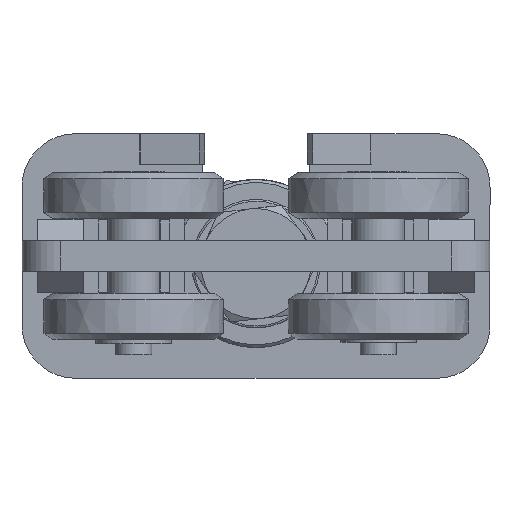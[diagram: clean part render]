
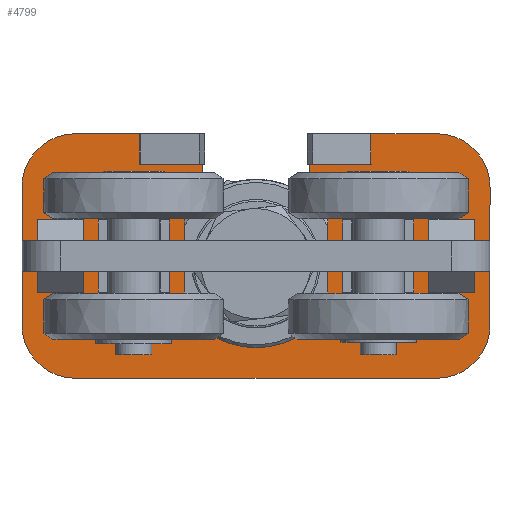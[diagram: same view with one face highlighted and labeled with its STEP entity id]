
A CAD part, front view. The second image highlights one B-rep face of the part: STEP entity #4799.
In plain terms, the highlighted planar face has unit normal (0, -1, 0) as drawn and (0, 0, 1) by its records, which use the part's own axes.
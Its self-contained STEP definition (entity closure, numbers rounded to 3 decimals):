
#278=FACE_BOUND('',#1145,.T.);
#279=FACE_BOUND('',#1146,.T.);
#417=CIRCLE('',#5154,17.5);
#418=CIRCLE('',#5155,17.5);
#419=CIRCLE('',#5156,17.5);
#420=CIRCLE('',#5157,17.5);
#421=CIRCLE('',#5158,17.5);
#846=FACE_OUTER_BOUND('',#1144,.T.);
#1144=EDGE_LOOP('',(#3602,#3603,#3604,#3605,#3606,#3607,#3608,#3609,#3610,
#3611,#3612,#3613,#3614,#3615,#3616,#3617,#3618,#3619,#3620,#3621));
#1145=EDGE_LOOP('',(#3622,#3623,#3624,#3625));
#1146=EDGE_LOOP('',(#3626,#3627,#3628,#3629));
#1627=LINE('',#7539,#1955);
#1639=LINE('',#7563,#1967);
#1643=LINE('',#7571,#1971);
#1645=LINE('',#7575,#1973);
#1648=LINE('',#7581,#1976);
#1649=LINE('',#7585,#1977);
#1650=LINE('',#7589,#1978);
#1651=LINE('',#7593,#1979);
#1652=LINE('',#7597,#1980);
#1653=LINE('',#7599,#1981);
#1654=LINE('',#7601,#1982);
#1655=LINE('',#7603,#1983);
#1656=LINE('',#7605,#1984);
#1657=LINE('',#7607,#1985);
#1658=LINE('',#7610,#1986);
#1659=LINE('',#7613,#1987);
#1660=LINE('',#7615,#1988);
#1661=LINE('',#7617,#1989);
#1662=LINE('',#7618,#1990);
#1663=LINE('',#7621,#1991);
#1664=LINE('',#7623,#1992);
#1665=LINE('',#7625,#1993);
#1666=LINE('',#7626,#1994);
#1955=VECTOR('',#5997,10.);
#1967=VECTOR('',#6023,0.1);
#1971=VECTOR('',#6029,0.1);
#1973=VECTOR('',#6033,20.571);
#1976=VECTOR('',#6038,21.029);
#1977=VECTOR('',#6041,45.);
#1978=VECTOR('',#6044,118.);
#1979=VECTOR('',#6047,45.);
#1980=VECTOR('',#6050,21.5);
#1981=VECTOR('',#6051,10.);
#1982=VECTOR('',#6052,0.1);
#1983=VECTOR('',#6053,0.1);
#1984=VECTOR('',#6054,20.1);
#1985=VECTOR('',#6055,32.4);
#1986=VECTOR('',#6058,32.4);
#1987=VECTOR('',#6059,10.2);
#1988=VECTOR('',#6060,40.4);
#1989=VECTOR('',#6061,10.2);
#1990=VECTOR('',#6062,40.4);
#1991=VECTOR('',#6063,10.2);
#1992=VECTOR('',#6064,40.4);
#1993=VECTOR('',#6065,10.2);
#1994=VECTOR('',#6066,40.4);
#2242=VERTEX_POINT('',#7526);
#2245=VERTEX_POINT('',#7533);
#2251=VERTEX_POINT('',#7562);
#2254=VERTEX_POINT('',#7570);
#2255=VERTEX_POINT('',#7574);
#2257=VERTEX_POINT('',#7580);
#2258=VERTEX_POINT('',#7582);
#2259=VERTEX_POINT('',#7584);
#2260=VERTEX_POINT('',#7586);
#2261=VERTEX_POINT('',#7588);
#2262=VERTEX_POINT('',#7590);
#2263=VERTEX_POINT('',#7592);
#2264=VERTEX_POINT('',#7594);
#2265=VERTEX_POINT('',#7596);
#2266=VERTEX_POINT('',#7598);
#2267=VERTEX_POINT('',#7600);
#2268=VERTEX_POINT('',#7602);
#2269=VERTEX_POINT('',#7604);
#2270=VERTEX_POINT('',#7606);
#2271=VERTEX_POINT('',#7608);
#2272=VERTEX_POINT('',#7611);
#2273=VERTEX_POINT('',#7612);
#2274=VERTEX_POINT('',#7614);
#2275=VERTEX_POINT('',#7616);
#2276=VERTEX_POINT('',#7619);
#2277=VERTEX_POINT('',#7620);
#2278=VERTEX_POINT('',#7622);
#2279=VERTEX_POINT('',#7624);
#2751=EDGE_CURVE('',#2242,#2245,#1627,.T.);
#2763=EDGE_CURVE('',#2251,#2242,#1639,.T.);
#2767=EDGE_CURVE('',#2254,#2251,#1643,.T.);
#2769=EDGE_CURVE('',#2254,#2255,#1645,.T.);
#2772=EDGE_CURVE('',#2257,#2245,#1648,.T.);
#2773=EDGE_CURVE('',#2258,#2257,#417,.T.);
#2774=EDGE_CURVE('',#2259,#2258,#1649,.T.);
#2775=EDGE_CURVE('',#2260,#2259,#418,.T.);
#2776=EDGE_CURVE('',#2261,#2260,#1650,.T.);
#2777=EDGE_CURVE('',#2262,#2261,#419,.T.);
#2778=EDGE_CURVE('',#2263,#2262,#1651,.T.);
#2779=EDGE_CURVE('',#2264,#2263,#420,.T.);
#2780=EDGE_CURVE('',#2265,#2264,#1652,.T.);
#2781=EDGE_CURVE('',#2265,#2266,#1653,.T.);
#2782=EDGE_CURVE('',#2266,#2267,#1654,.T.);
#2783=EDGE_CURVE('',#2267,#2268,#1655,.T.);
#2784=EDGE_CURVE('',#2268,#2269,#1656,.T.);
#2785=EDGE_CURVE('',#2270,#2269,#1657,.T.);
#2786=EDGE_CURVE('',#2271,#2270,#421,.T.);
#2787=EDGE_CURVE('',#2255,#2271,#1658,.T.);
#2788=EDGE_CURVE('',#2272,#2273,#1659,.T.);
#2789=EDGE_CURVE('',#2273,#2274,#1660,.T.);
#2790=EDGE_CURVE('',#2274,#2275,#1661,.T.);
#2791=EDGE_CURVE('',#2275,#2272,#1662,.T.);
#2792=EDGE_CURVE('',#2276,#2277,#1663,.T.);
#2793=EDGE_CURVE('',#2277,#2278,#1664,.T.);
#2794=EDGE_CURVE('',#2278,#2279,#1665,.T.);
#2795=EDGE_CURVE('',#2279,#2276,#1666,.T.);
#3602=ORIENTED_EDGE('',*,*,#2769,.F.);
#3603=ORIENTED_EDGE('',*,*,#2767,.T.);
#3604=ORIENTED_EDGE('',*,*,#2763,.T.);
#3605=ORIENTED_EDGE('',*,*,#2751,.T.);
#3606=ORIENTED_EDGE('',*,*,#2772,.F.);
#3607=ORIENTED_EDGE('',*,*,#2773,.F.);
#3608=ORIENTED_EDGE('',*,*,#2774,.F.);
#3609=ORIENTED_EDGE('',*,*,#2775,.F.);
#3610=ORIENTED_EDGE('',*,*,#2776,.F.);
#3611=ORIENTED_EDGE('',*,*,#2777,.F.);
#3612=ORIENTED_EDGE('',*,*,#2778,.F.);
#3613=ORIENTED_EDGE('',*,*,#2779,.F.);
#3614=ORIENTED_EDGE('',*,*,#2780,.F.);
#3615=ORIENTED_EDGE('',*,*,#2781,.T.);
#3616=ORIENTED_EDGE('',*,*,#2782,.T.);
#3617=ORIENTED_EDGE('',*,*,#2783,.T.);
#3618=ORIENTED_EDGE('',*,*,#2784,.T.);
#3619=ORIENTED_EDGE('',*,*,#2785,.F.);
#3620=ORIENTED_EDGE('',*,*,#2786,.F.);
#3621=ORIENTED_EDGE('',*,*,#2787,.F.);
#3622=ORIENTED_EDGE('',*,*,#2788,.T.);
#3623=ORIENTED_EDGE('',*,*,#2789,.T.);
#3624=ORIENTED_EDGE('',*,*,#2790,.T.);
#3625=ORIENTED_EDGE('',*,*,#2791,.T.);
#3626=ORIENTED_EDGE('',*,*,#2792,.T.);
#3627=ORIENTED_EDGE('',*,*,#2793,.T.);
#3628=ORIENTED_EDGE('',*,*,#2794,.T.);
#3629=ORIENTED_EDGE('',*,*,#2795,.T.);
#4612=PLANE('',#5153);
#4799=ADVANCED_FACE('',(#846,#278,#279),#4612,.T.);
#5153=AXIS2_PLACEMENT_3D('',#7579,#6036,#6037);
#5154=AXIS2_PLACEMENT_3D('',#7583,#6039,#6040);
#5155=AXIS2_PLACEMENT_3D('',#7587,#6042,#6043);
#5156=AXIS2_PLACEMENT_3D('',#7591,#6045,#6046);
#5157=AXIS2_PLACEMENT_3D('',#7595,#6048,#6049);
#5158=AXIS2_PLACEMENT_3D('',#7609,#6056,#6057);
#5997=DIRECTION('',(0.,-1.,0.));
#6023=DIRECTION('',(-1.,0.,0.));
#6029=DIRECTION('',(0.,-1.,0.));
#6033=DIRECTION('',(-1.,0.,0.));
#6036=DIRECTION('center_axis',(0.,0.,1.));
#6037=DIRECTION('ref_axis',(1.,0.,0.));
#6038=DIRECTION('',(-1.,0.,0.));
#6039=DIRECTION('center_axis',(0.,0.,-1.));
#6040=DIRECTION('ref_axis',(0.,-1.,0.));
#6041=DIRECTION('',(0.,-1.,0.));
#6042=DIRECTION('center_axis',(0.,0.,-1.));
#6043=DIRECTION('ref_axis',(1.,0.,0.));
#6044=DIRECTION('',(1.,0.,0.));
#6045=DIRECTION('center_axis',(0.,0.,-1.));
#6046=DIRECTION('ref_axis',(0.,1.,0.));
#6047=DIRECTION('',(0.,1.,0.));
#6048=DIRECTION('center_axis',(0.,0.,-1.));
#6049=DIRECTION('ref_axis',(-1.,0.,0.));
#6050=DIRECTION('',(-1.,0.,0.));
#6051=DIRECTION('',(0.,1.,0.));
#6052=DIRECTION('',(-1.,0.,0.));
#6053=DIRECTION('',(0.,1.,0.));
#6054=DIRECTION('',(1.,0.,0.));
#6055=DIRECTION('',(0.,-1.,0.));
#6056=DIRECTION('center_axis',(0.,0.,1.));
#6057=DIRECTION('ref_axis',(-1.,0.,0.));
#6058=DIRECTION('',(0.,1.,0.));
#6059=DIRECTION('',(0.,-1.,0.));
#6060=DIRECTION('',(-1.,0.,0.));
#6061=DIRECTION('',(0.,1.,0.));
#6062=DIRECTION('',(1.,0.,0.));
#6063=DIRECTION('',(0.,-1.,0.));
#6064=DIRECTION('',(-1.,0.,0.));
#6065=DIRECTION('',(0.,1.,0.));
#6066=DIRECTION('',(1.,0.,0.));
#7526=CARTESIAN_POINT('',(37.971,-30.,10.));
#7533=CARTESIAN_POINT('',(37.971,-40.,10.));
#7539=CARTESIAN_POINT('',(37.971,-21.53,10.));
#7562=CARTESIAN_POINT('',(38.071,-30.,10.));
#7563=CARTESIAN_POINT('',(18.464,-30.,10.));
#7570=CARTESIAN_POINT('',(38.071,-29.9,10.));
#7571=CARTESIAN_POINT('',(38.071,-16.53,10.));
#7574=CARTESIAN_POINT('',(17.5,-29.9,10.));
#7575=CARTESIAN_POINT('',(17.5,-29.9,10.));
#7579=CARTESIAN_POINT('Origin',(0.,-3.06,
10.));
#7580=CARTESIAN_POINT('',(59.,-40.,10.));
#7581=CARTESIAN_POINT('',(-59.,-40.,10.));
#7582=CARTESIAN_POINT('',(76.5,-22.5,10.));
#7583=CARTESIAN_POINT('Origin',(59.,-22.5,10.));
#7584=CARTESIAN_POINT('',(76.5,22.5,10.));
#7585=CARTESIAN_POINT('',(76.5,-22.5,10.));
#7586=CARTESIAN_POINT('',(59.,40.,10.));
#7587=CARTESIAN_POINT('Origin',(59.,22.5,10.));
#7588=CARTESIAN_POINT('',(-59.,40.,10.));
#7589=CARTESIAN_POINT('',(59.,40.,10.));
#7590=CARTESIAN_POINT('',(-76.5,22.5,10.));
#7591=CARTESIAN_POINT('Origin',(-59.,22.5,10.));
#7592=CARTESIAN_POINT('',(-76.5,-22.5,10.));
#7593=CARTESIAN_POINT('',(-76.5,22.5,10.));
#7594=CARTESIAN_POINT('',(-59.,-40.,10.));
#7595=CARTESIAN_POINT('Origin',(-59.,-22.5,10.));
#7596=CARTESIAN_POINT('',(-37.5,-40.,10.));
#7597=CARTESIAN_POINT('',(-59.,-40.,10.));
#7598=CARTESIAN_POINT('',(-37.5,-30.,10.));
#7599=CARTESIAN_POINT('',(-37.5,-16.53,10.));
#7600=CARTESIAN_POINT('',(-37.6,-30.,10.));
#7601=CARTESIAN_POINT('',(-18.8,-30.,10.));
#7602=CARTESIAN_POINT('',(-37.6,-29.9,10.));
#7603=CARTESIAN_POINT('',(-37.6,-16.48,10.));
#7604=CARTESIAN_POINT('',(-17.5,-29.9,10.));
#7605=CARTESIAN_POINT('',(-18.229,-29.9,10.));
#7606=CARTESIAN_POINT('',(-17.5,2.5,10.));
#7607=CARTESIAN_POINT('',(-17.5,-29.9,10.));
#7608=CARTESIAN_POINT('',(17.5,2.5,10.));
#7609=CARTESIAN_POINT('Origin',(0.,2.5,10.));
#7610=CARTESIAN_POINT('',(17.5,2.5,10.));
#7611=CARTESIAN_POINT('',(-24.3,5.1,10.));
#7612=CARTESIAN_POINT('',(-24.3,-5.1,10.));
#7613=CARTESIAN_POINT('',(-24.3,1.02,10.));
#7614=CARTESIAN_POINT('',(-64.7,-5.1,10.));
#7615=CARTESIAN_POINT('',(-12.15,-5.1,10.));
#7616=CARTESIAN_POINT('',(-64.7,5.1,10.));
#7617=CARTESIAN_POINT('',(-64.7,-4.08,10.));
#7618=CARTESIAN_POINT('',(-32.35,5.1,10.));
#7619=CARTESIAN_POINT('',(64.7,5.1,10.));
#7620=CARTESIAN_POINT('',(64.7,-5.1,10.));
#7621=CARTESIAN_POINT('',(64.7,1.02,10.));
#7622=CARTESIAN_POINT('',(24.3,-5.1,10.));
#7623=CARTESIAN_POINT('',(32.35,-5.1,10.));
#7624=CARTESIAN_POINT('',(24.3,5.1,10.));
#7625=CARTESIAN_POINT('',(24.3,-4.08,10.));
#7626=CARTESIAN_POINT('',(12.15,5.1,10.));
